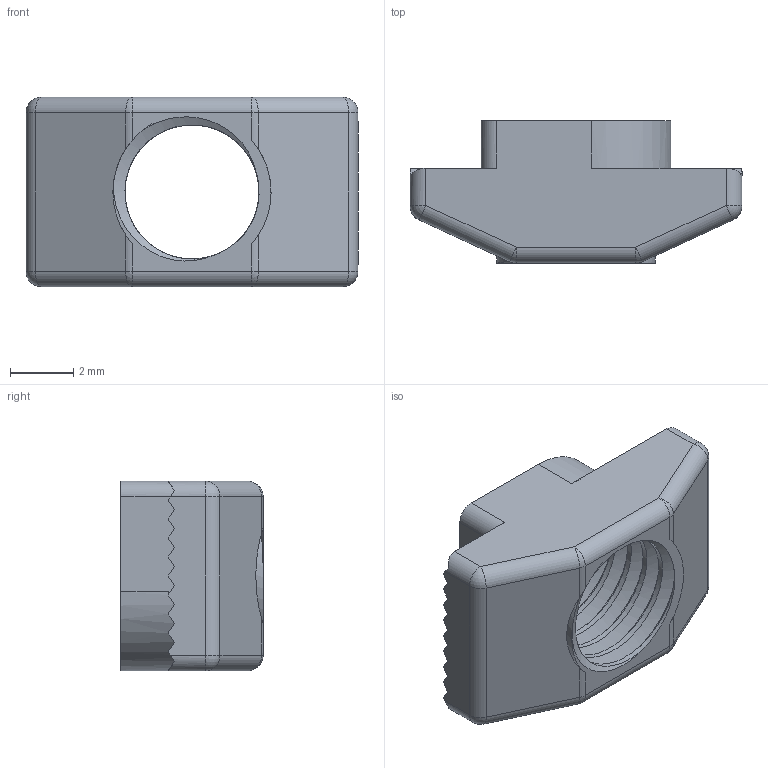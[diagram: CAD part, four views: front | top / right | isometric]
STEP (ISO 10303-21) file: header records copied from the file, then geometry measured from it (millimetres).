
FILE_DESCRIPTION (( 'STEP AP214' ), '1' );
FILE_NAME ('6-1-M5.STEP', '2020-01-12T13:04:28', ( '' ), ( '' ), 'SwSTEP 2.0', 'SolidWorks 2018', '' );
FILE_SCHEMA (( 'AUTOMOTIVE_DESIGN' ));
Length unit declared in the file: millimetre
Products named in the file (1): 6-1-M5
Bounding box: 10.5 x 4.5 x 6 mm (x, y, z)
Volume: 130.8 mm3; surface area: 304.3 mm2
Topology: 1 solids, 1 shells, 101 faces, 281 edges, 173 vertices
Faces by surface type: plane 52, cylinder 34, sphere 8, bspline 5, cone 2
Entity records: 4708 total; most frequent: CARTESIAN_POINT 2343, ORIENTED_EDGE 546, DIRECTION 427, EDGE_CURVE 273, VERTEX_POINT 173, VECTOR 163, LINE 163, AXIS2_PLACEMENT_3D 132
